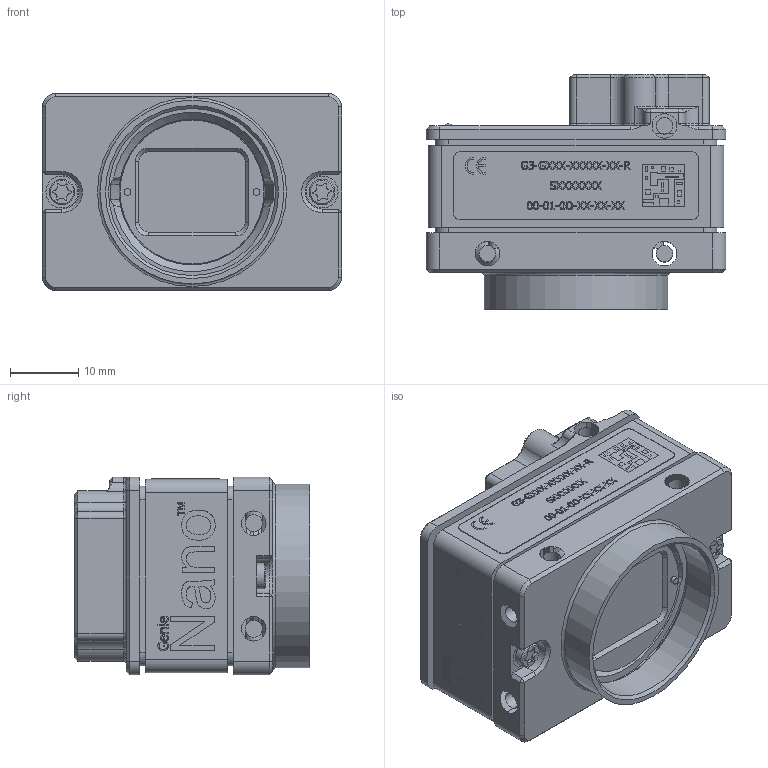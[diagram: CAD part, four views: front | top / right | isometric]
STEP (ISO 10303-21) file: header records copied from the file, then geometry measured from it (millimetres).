
FILE_DESCRIPTION(/* description */ (''),/* implementation_level */ '2;1');
FILE_NAME(/* name */ 'C:\Users\sduhra\Desktop\cad MODELS\NOVA CAMERA ASSEMBLY-SIZE 3 (CS-MOUNT) IMX25x.stp',/* time_stamp */ '2018-07-09T16:15:15-04:00',/* author */ ('sduhra'),/* organization */ (''),/* preprocessor_version */ 'ST-DEVELOPER v17',/* originating_system */ 'Autodesk Inventor 2018',/* authorisation */ '');
FILE_SCHEMA (('AUTOMOTIVE_DESIGN { 1 0 10303 214 3 1 1 }'));
Products named in the file (1): NOVA CAMERA ASSEMBLY-IMX25x CS-MNT
Bounding box: 44 x 34.55 x 29 mm (x, y, z)
Volume: 26256.8 mm3; surface area: 13288.4 mm2
Topology: 2 solids, 2 shells, 2312 faces, 6249 edges, 4047 vertices
Faces by surface type: plane 1458, cylinder 414, bspline 304, cone 90, torus 38, sphere 8
Full cylindrical faces by diameter (mm): 1.2 x2, 1.567 x4, 1.7 x1, 2.459 x9, 3.8 x2, 4.7 x2, 24.536 x1, 25.654 x1, 27 x1
Entity records: 79623 total; most frequent: CARTESIAN_POINT 20862, ORIENTED_EDGE 12500, DIRECTION 10534, EDGE_CURVE 6250, LINE 4438, VECTOR 4438, VERTEX_POINT 4055, AXIS2_PLACEMENT_3D 3048
